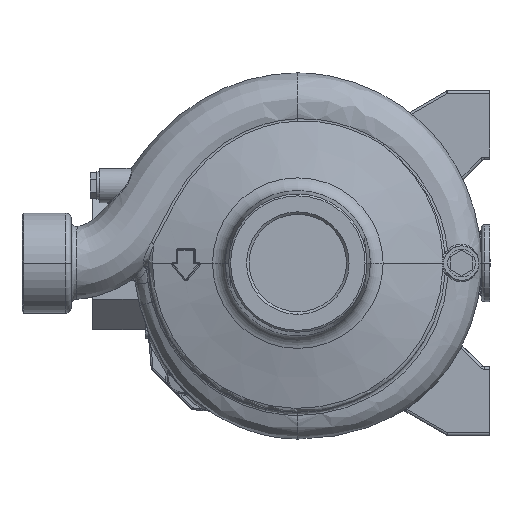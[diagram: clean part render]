
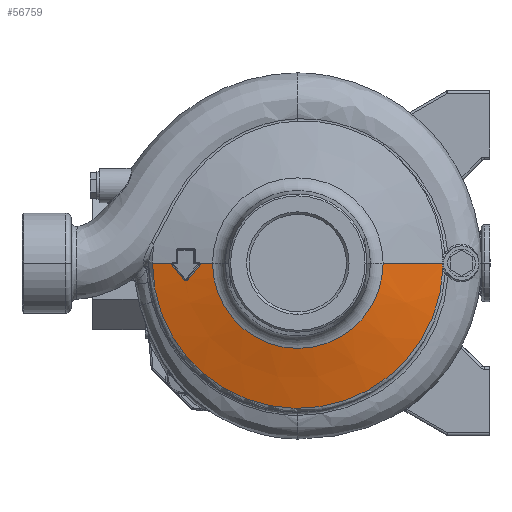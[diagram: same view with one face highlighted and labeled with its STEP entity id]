
A CAD part, left-side view. The second image highlights one B-rep face of the part: STEP entity #56759.
In plain terms, the highlighted conical face has half-angle 75 degrees and reference radius 66.878 mm.
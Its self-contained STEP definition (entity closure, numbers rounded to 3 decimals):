
#45486=CARTESIAN_POINT('',(0.,-83.741,
15.46));
#45487=CARTESIAN_POINT('',(-0.545,-83.741,
15.46));
#45488=CARTESIAN_POINT('',(-1.619,-83.822,
15.435));
#45489=CARTESIAN_POINT('',(-2.667,-84.058,
15.364));
#45490=CARTESIAN_POINT('',(-3.187,-84.216,
15.316));
#45492=CARTESIAN_POINT('',(0.,0.,15.316));
#45493=DIRECTION('',(0.,0.,1.));
#45494=DIRECTION('',(0.,1.,0.));
#45495=AXIS2_PLACEMENT_3D('',#45492,#45493,#45494);
#45497=DIRECTION('',(0.,-0.966,0.259));
#45498=VECTOR('',#45497,11.617);
#45499=CARTESIAN_POINT('',(0.,84.276,
15.316));
#45500=LINE('',#45499,#45498);
#45501=CARTESIAN_POINT('',(0.,73.055,
18.323));
#45502=CARTESIAN_POINT('',(-0.059,73.09,
18.314));
#45503=CARTESIAN_POINT('',(-0.182,73.145,
18.299));
#45504=CARTESIAN_POINT('',(-0.384,73.19,
18.287));
#45505=CARTESIAN_POINT('',(-0.589,73.192,
18.285));
#45506=CARTESIAN_POINT('',(-0.791,73.153,
18.295));
#45507=CARTESIAN_POINT('',(-0.979,73.074,
18.316));
#45508=CARTESIAN_POINT('',(-1.089,72.999,
18.336));
#45509=CARTESIAN_POINT('',(-1.141,72.955,
18.347));
#45511=CARTESIAN_POINT('',(-1.141,72.955,
18.347));
#45512=CARTESIAN_POINT('',(-2.147,72.11,
18.57));
#45513=CARTESIAN_POINT('',(-4.131,70.442,
18.997));
#45514=CARTESIAN_POINT('',(-7.03,68.005,
19.585));
#45515=CARTESIAN_POINT('',(-8.914,66.421,
19.943));
#45516=CARTESIAN_POINT('',(-9.846,65.638,
20.113));
#45518=CARTESIAN_POINT('',(-9.846,65.638,
20.113));
#45519=CARTESIAN_POINT('',(-9.9,65.593,
20.123));
#45520=CARTESIAN_POINT('',(-9.997,65.492,
20.146));
#45521=CARTESIAN_POINT('',(-10.115,65.302,
20.192));
#45522=CARTESIAN_POINT('',(-10.187,65.089,
20.245));
#45523=CARTESIAN_POINT('',(-10.21,64.868,
20.303));
#45524=CARTESIAN_POINT('',(-10.185,64.649,
20.361));
#45525=CARTESIAN_POINT('',(-10.114,64.442,
20.419));
#45526=CARTESIAN_POINT('',(-9.999,64.256,
20.473));
#45527=CARTESIAN_POINT('',(-9.901,64.153,
20.505));
#45528=CARTESIAN_POINT('',(-9.845,64.106,
20.519));
#45530=CARTESIAN_POINT('',(-9.845,64.106,
20.519));
#45531=CARTESIAN_POINT('',(-8.806,63.232,
20.793));
#45532=CARTESIAN_POINT('',(-6.778,61.527,
21.317));
#45533=CARTESIAN_POINT('',(-3.891,59.099,
22.033));
#45534=CARTESIAN_POINT('',(-2.044,57.546,
22.471));
#45535=CARTESIAN_POINT('',(-1.14,56.786,
22.679));
#45537=CARTESIAN_POINT('',(-1.14,56.786,
22.679));
#45538=CARTESIAN_POINT('',(-1.088,56.742,
22.691));
#45539=CARTESIAN_POINT('',(-0.978,56.667,
22.712));
#45540=CARTESIAN_POINT('',(-0.789,56.588,
22.734));
#45541=CARTESIAN_POINT('',(-0.588,56.549,
22.745));
#45542=CARTESIAN_POINT('',(-0.382,56.552,
22.745));
#45543=CARTESIAN_POINT('',(-0.182,56.596,
22.733));
#45544=CARTESIAN_POINT('',(-0.059,56.652,
22.718));
#45545=CARTESIAN_POINT('',(0.,56.686,
22.709));
#45547=DIRECTION('',(0.,-0.966,0.259));
#45548=VECTOR('',#45547,7.46);
#45549=CARTESIAN_POINT('',(0.,56.686,
22.709));
#45550=LINE('',#45549,#45548);
#45551=CARTESIAN_POINT('',(0.,0.,24.64));
#45552=DIRECTION('',(0.,0.,-1.));
#45553=DIRECTION('',(0.,-1.,0.));
#45554=AXIS2_PLACEMENT_3D('',#45551,#45552,#45553);
#45560=CARTESIAN_POINT('',(0.,-83.741,
15.46));
#45562=DIRECTION('',(0.,0.966,0.259));
#45563=VECTOR('',#45562,35.47);
#45564=CARTESIAN_POINT('',(0.,-83.741,
15.46));
#45565=LINE('',#45564,#45563);
#45643=CARTESIAN_POINT('',(0.,73.055,
18.323));
#47742=CARTESIAN_POINT('',(0.,-49.48,24.64));
#47743=CARTESIAN_POINT('',(0.,49.48,24.64));
#47744=VERTEX_POINT('',#47742);
#47745=VERTEX_POINT('',#47743);
#47814=VERTEX_POINT('',#45537);
#47815=VERTEX_POINT('',#45545);
#47840=VERTEX_POINT('',#45643);
#47842=VERTEX_POINT('',#45509);
#47844=VERTEX_POINT('',#45516);
#47846=VERTEX_POINT('',#45528);
#47848=CARTESIAN_POINT('',(0.,84.276,
15.316));
#47849=VERTEX_POINT('',#47848);
#48167=CARTESIAN_POINT('',(-3.187,-84.216,
15.316));
#48169=VERTEX_POINT('',#48167);
#48386=VERTEX_POINT('',#45560);
#56732=CARTESIAN_POINT('',(0.,0.,19.978));
#56733=DIRECTION('',(0.,0.,-1.));
#56734=DIRECTION('',(0.,-1.,0.));
#56735=AXIS2_PLACEMENT_3D('',#56732,#56733,#56734);
#56736=CONICAL_SURFACE('',#56735,66.878,75.);
#56737=ORIENTED_EDGE('',*,*,#56723,.T.);
#56738=ORIENTED_EDGE('',*,*,#56144,.F.);
#56740=ORIENTED_EDGE('',*,*,#56739,.T.);
#56742=ORIENTED_EDGE('',*,*,#56741,.T.);
#56744=ORIENTED_EDGE('',*,*,#56743,.T.);
#56746=ORIENTED_EDGE('',*,*,#56745,.T.);
#56748=ORIENTED_EDGE('',*,*,#56747,.T.);
#56750=ORIENTED_EDGE('',*,*,#56749,.T.);
#56752=ORIENTED_EDGE('',*,*,#56751,.T.);
#56754=ORIENTED_EDGE('',*,*,#56753,.F.);
#56756=ORIENTED_EDGE('',*,*,#56755,.F.);
#56757=EDGE_LOOP('',(#56737,#56738,#56740,#56742,#56744,#56746,#56748,#56750,
#56752,#56754,#56756));
#56758=FACE_OUTER_BOUND('',#56757,.F.);
#45491=B_SPLINE_CURVE_WITH_KNOTS('',3,(#45486,#45487,#45488,#45489,#45490),
.UNSPECIFIED.,.F.,.F.,(4,1,4),(0.,0.5,1.),.UNSPECIFIED.);
#45496=CIRCLE('',#45495,84.276);
#45510=B_SPLINE_CURVE_WITH_KNOTS('',3,(#45501,#45502,#45503,#45504,#45505,
#45506,#45507,#45508,#45509),.UNSPECIFIED.,.F.,.F.,(4,1,1,1,1,1,4),(0.,
0.167,0.333,0.5,0.667,0.833,
1.),.UNSPECIFIED.);
#45517=B_SPLINE_CURVE_WITH_KNOTS('',3,(#45511,#45512,#45513,#45514,#45515,
#45516),.UNSPECIFIED.,.F.,.F.,(4,1,1,4),(0.,0.333,
0.667,1.),.UNSPECIFIED.);
#45529=B_SPLINE_CURVE_WITH_KNOTS('',3,(#45518,#45519,#45520,#45521,#45522,
#45523,#45524,#45525,#45526,#45527,#45528),.UNSPECIFIED.,.F.,.F.,(4,1,1,1,1,1,1,
1,4),(0.,0.125,0.25,0.375,0.5,0.625,0.75,0.875,1.),
.UNSPECIFIED.);
#45536=B_SPLINE_CURVE_WITH_KNOTS('',3,(#45530,#45531,#45532,#45533,#45534,
#45535),.UNSPECIFIED.,.F.,.F.,(4,1,1,4),(0.,0.333,
0.667,1.),.UNSPECIFIED.);
#45546=B_SPLINE_CURVE_WITH_KNOTS('',3,(#45537,#45538,#45539,#45540,#45541,
#45542,#45543,#45544,#45545),.UNSPECIFIED.,.F.,.F.,(4,1,1,1,1,1,4),(0.,
0.167,0.333,0.5,0.667,0.833,
1.),.UNSPECIFIED.);
#45555=CIRCLE('',#45554,49.48);
#56144=EDGE_CURVE('',#47849,#48169,#45496,.T.);
#56723=EDGE_CURVE('',#48386,#48169,#45491,.T.);
#56739=EDGE_CURVE('',#47849,#47840,#45500,.T.);
#56741=EDGE_CURVE('',#47840,#47842,#45510,.T.);
#56743=EDGE_CURVE('',#47842,#47844,#45517,.T.);
#56745=EDGE_CURVE('',#47844,#47846,#45529,.T.);
#56747=EDGE_CURVE('',#47846,#47814,#45536,.T.);
#56749=EDGE_CURVE('',#47814,#47815,#45546,.T.);
#56751=EDGE_CURVE('',#47815,#47745,#45550,.T.);
#56753=EDGE_CURVE('',#47744,#47745,#45555,.T.);
#56755=EDGE_CURVE('',#48386,#47744,#45565,.T.);
#56759=ADVANCED_FACE('',(#56758),#56736,.T.);
